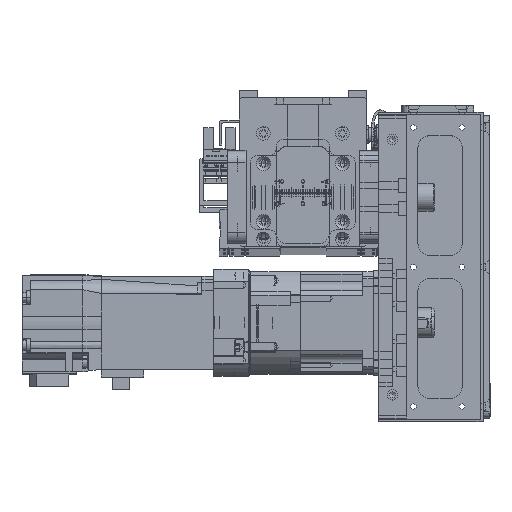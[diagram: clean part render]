
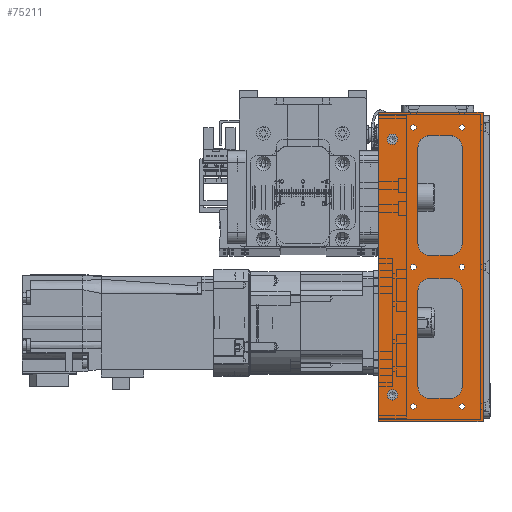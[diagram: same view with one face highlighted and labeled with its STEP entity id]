
A CAD part, top view. The second image highlights one B-rep face of the part: STEP entity #75211.
In plain terms, the highlighted planar face has unit normal (0, 0, 1) as drawn and (0, 1, 0) by its records, which use the part's own axes.
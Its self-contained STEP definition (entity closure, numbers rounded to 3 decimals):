
#1809=FACE_BOUND('',#12019,.T.);
#1810=FACE_BOUND('',#12020,.T.);
#1811=FACE_BOUND('',#12021,.T.);
#1812=FACE_BOUND('',#12022,.T.);
#1813=FACE_BOUND('',#12023,.T.);
#1814=FACE_BOUND('',#12024,.T.);
#1815=FACE_BOUND('',#12025,.T.);
#1816=FACE_BOUND('',#12026,.T.);
#1817=FACE_BOUND('',#12027,.T.);
#1818=FACE_BOUND('',#12028,.T.);
#3532=PLANE('',#82745);
#7428=FACE_OUTER_BOUND('',#12018,.T.);
#12018=EDGE_LOOP('',(#64991,#64992,#64993,#64994));
#12019=EDGE_LOOP('',(#64995));
#12020=EDGE_LOOP('',(#64996));
#12021=EDGE_LOOP('',(#64997));
#12022=EDGE_LOOP('',(#64998));
#12023=EDGE_LOOP('',(#64999));
#12024=EDGE_LOOP('',(#65000));
#12025=EDGE_LOOP('',(#65001));
#12026=EDGE_LOOP('',(#65002));
#12027=EDGE_LOOP('',(#65003,#65004,#65005,#65006,#65007,#65008,#65009,#65010));
#12028=EDGE_LOOP('',(#65011,#65012,#65013,#65014,#65015,#65016,#65017,#65018));
#16088=CIRCLE('',#82566,2.25);
#16092=CIRCLE('',#82572,2.25);
#16103=CIRCLE('',#82593,1.23);
#16107=CIRCLE('',#82599,1.23);
#16111=CIRCLE('',#82605,1.23);
#16115=CIRCLE('',#82611,1.23);
#16119=CIRCLE('',#82617,1.23);
#16123=CIRCLE('',#82623,1.23);
#16156=CIRCLE('',#82676,5.);
#16160=CIRCLE('',#82685,5.);
#16164=CIRCLE('',#82691,5.);
#16166=CIRCLE('',#82697,5.);
#16172=CIRCLE('',#82708,5.);
#16176=CIRCLE('',#82717,5.);
#16180=CIRCLE('',#82723,5.);
#16182=CIRCLE('',#82729,5.);
#20860=LINE('',#125280,#28519);
#20875=LINE('',#125310,#28534);
#20946=LINE('',#125600,#28605);
#20951=LINE('',#125611,#28610);
#20958=LINE('',#125636,#28617);
#20963=LINE('',#125647,#28622);
#20978=LINE('',#125696,#28637);
#20983=LINE('',#125707,#28642);
#20990=LINE('',#125732,#28649);
#20995=LINE('',#125743,#28654);
#21015=LINE('',#125793,#28674);
#21016=LINE('',#125795,#28675);
#28519=VECTOR('',#99221,10.);
#28534=VECTOR('',#99240,10.);
#28605=VECTOR('',#99555,10.);
#28610=VECTOR('',#99564,10.);
#28617=VECTOR('',#99591,10.);
#28622=VECTOR('',#99600,10.);
#28637=VECTOR('',#99651,10.);
#28642=VECTOR('',#99660,10.);
#28649=VECTOR('',#99687,10.);
#28654=VECTOR('',#99696,10.);
#28674=VECTOR('',#99752,10.);
#28675=VECTOR('',#99755,10.);
#36533=VERTEX_POINT('',#125277);
#36534=VERTEX_POINT('',#125279);
#36547=VERTEX_POINT('',#125308);
#36552=VERTEX_POINT('',#125328);
#36556=VERTEX_POINT('',#125340);
#36575=VERTEX_POINT('',#125398);
#36579=VERTEX_POINT('',#125410);
#36583=VERTEX_POINT('',#125422);
#36587=VERTEX_POINT('',#125434);
#36591=VERTEX_POINT('',#125446);
#36595=VERTEX_POINT('',#125458);
#36637=VERTEX_POINT('',#125581);
#36638=VERTEX_POINT('',#125583);
#36644=VERTEX_POINT('',#125598);
#36648=VERTEX_POINT('',#125610);
#36650=VERTEX_POINT('',#125616);
#36654=VERTEX_POINT('',#125628);
#36656=VERTEX_POINT('',#125634);
#36660=VERTEX_POINT('',#125646);
#36669=VERTEX_POINT('',#125677);
#36670=VERTEX_POINT('',#125679);
#36676=VERTEX_POINT('',#125694);
#36680=VERTEX_POINT('',#125706);
#36682=VERTEX_POINT('',#125712);
#36686=VERTEX_POINT('',#125724);
#36688=VERTEX_POINT('',#125730);
#36692=VERTEX_POINT('',#125742);
#36704=VERTEX_POINT('',#125791);
#46235=EDGE_CURVE('',#36533,#36534,#20860,.T.);
#46251=EDGE_CURVE('',#36547,#36533,#20875,.T.);
#46261=EDGE_CURVE('',#36552,#36552,#16088,.T.);
#46267=EDGE_CURVE('',#36556,#36556,#16092,.T.);
#46295=EDGE_CURVE('',#36575,#36575,#16103,.T.);
#46301=EDGE_CURVE('',#36579,#36579,#16107,.T.);
#46307=EDGE_CURVE('',#36583,#36583,#16111,.T.);
#46313=EDGE_CURVE('',#36587,#36587,#16115,.T.);
#46319=EDGE_CURVE('',#36591,#36591,#16119,.T.);
#46325=EDGE_CURVE('',#36595,#36595,#16123,.T.);
#46387=EDGE_CURVE('',#36638,#36637,#16156,.T.);
#46395=EDGE_CURVE('',#36637,#36644,#20946,.T.);
#46400=EDGE_CURVE('',#36648,#36638,#20951,.T.);
#46404=EDGE_CURVE('',#36644,#36650,#16160,.T.);
#46409=EDGE_CURVE('',#36654,#36648,#16164,.T.);
#46413=EDGE_CURVE('',#36650,#36656,#20958,.T.);
#46418=EDGE_CURVE('',#36660,#36654,#20963,.T.);
#46421=EDGE_CURVE('',#36656,#36660,#16166,.T.);
#46435=EDGE_CURVE('',#36670,#36669,#16172,.T.);
#46443=EDGE_CURVE('',#36669,#36676,#20978,.T.);
#46448=EDGE_CURVE('',#36680,#36670,#20983,.T.);
#46452=EDGE_CURVE('',#36676,#36682,#16176,.T.);
#46457=EDGE_CURVE('',#36686,#36680,#16180,.T.);
#46461=EDGE_CURVE('',#36682,#36688,#20990,.T.);
#46466=EDGE_CURVE('',#36692,#36686,#20995,.T.);
#46469=EDGE_CURVE('',#36688,#36692,#16182,.T.);
#46492=EDGE_CURVE('',#36704,#36534,#21015,.T.);
#46493=EDGE_CURVE('',#36547,#36704,#21016,.T.);
#64991=ORIENTED_EDGE('',*,*,#46493,.T.);
#64992=ORIENTED_EDGE('',*,*,#46492,.T.);
#64993=ORIENTED_EDGE('',*,*,#46235,.F.);
#64994=ORIENTED_EDGE('',*,*,#46251,.F.);
#64995=ORIENTED_EDGE('',*,*,#46261,.T.);
#64996=ORIENTED_EDGE('',*,*,#46267,.T.);
#64997=ORIENTED_EDGE('',*,*,#46295,.T.);
#64998=ORIENTED_EDGE('',*,*,#46301,.T.);
#64999=ORIENTED_EDGE('',*,*,#46307,.T.);
#65000=ORIENTED_EDGE('',*,*,#46313,.T.);
#65001=ORIENTED_EDGE('',*,*,#46319,.T.);
#65002=ORIENTED_EDGE('',*,*,#46325,.T.);
#65003=ORIENTED_EDGE('',*,*,#46421,.T.);
#65004=ORIENTED_EDGE('',*,*,#46418,.T.);
#65005=ORIENTED_EDGE('',*,*,#46409,.T.);
#65006=ORIENTED_EDGE('',*,*,#46400,.T.);
#65007=ORIENTED_EDGE('',*,*,#46387,.T.);
#65008=ORIENTED_EDGE('',*,*,#46395,.T.);
#65009=ORIENTED_EDGE('',*,*,#46404,.T.);
#65010=ORIENTED_EDGE('',*,*,#46413,.T.);
#65011=ORIENTED_EDGE('',*,*,#46469,.T.);
#65012=ORIENTED_EDGE('',*,*,#46466,.T.);
#65013=ORIENTED_EDGE('',*,*,#46457,.T.);
#65014=ORIENTED_EDGE('',*,*,#46448,.T.);
#65015=ORIENTED_EDGE('',*,*,#46435,.T.);
#65016=ORIENTED_EDGE('',*,*,#46443,.T.);
#65017=ORIENTED_EDGE('',*,*,#46452,.T.);
#65018=ORIENTED_EDGE('',*,*,#46461,.T.);
#75211=ADVANCED_FACE('',(#7428,#1809,#1810,#1811,#1812,#1813,#1814,#1815,
#1816,#1817,#1818),#3532,.T.);
#82566=AXIS2_PLACEMENT_3D('',#125330,#99262,#99263);
#82572=AXIS2_PLACEMENT_3D('',#125342,#99276,#99277);
#82593=AXIS2_PLACEMENT_3D('',#125399,#99335,#99336);
#82599=AXIS2_PLACEMENT_3D('',#125411,#99349,#99350);
#82605=AXIS2_PLACEMENT_3D('',#125423,#99363,#99364);
#82611=AXIS2_PLACEMENT_3D('',#125435,#99377,#99378);
#82617=AXIS2_PLACEMENT_3D('',#125447,#99391,#99392);
#82623=AXIS2_PLACEMENT_3D('',#125459,#99405,#99406);
#82676=AXIS2_PLACEMENT_3D('',#125584,#99540,#99541);
#82685=AXIS2_PLACEMENT_3D('',#125618,#99571,#99572);
#82691=AXIS2_PLACEMENT_3D('',#125629,#99584,#99585);
#82697=AXIS2_PLACEMENT_3D('',#125651,#99606,#99607);
#82708=AXIS2_PLACEMENT_3D('',#125680,#99636,#99637);
#82717=AXIS2_PLACEMENT_3D('',#125714,#99667,#99668);
#82723=AXIS2_PLACEMENT_3D('',#125725,#99680,#99681);
#82729=AXIS2_PLACEMENT_3D('',#125747,#99702,#99703);
#82745=AXIS2_PLACEMENT_3D('',#125794,#99753,#99754);
#99221=DIRECTION('',(1.,0.,0.));
#99240=DIRECTION('',(0.,0.,-1.));
#99262=DIRECTION('center_axis',(0.,-1.,0.));
#99263=DIRECTION('ref_axis',(1.,0.,0.));
#99276=DIRECTION('center_axis',(0.,-1.,0.));
#99277=DIRECTION('ref_axis',(1.,0.,0.));
#99335=DIRECTION('center_axis',(0.,-1.,0.));
#99336=DIRECTION('ref_axis',(1.,0.,0.));
#99349=DIRECTION('center_axis',(0.,-1.,0.));
#99350=DIRECTION('ref_axis',(1.,0.,0.));
#99363=DIRECTION('center_axis',(0.,-1.,0.));
#99364=DIRECTION('ref_axis',(1.,0.,0.));
#99377=DIRECTION('center_axis',(0.,-1.,0.));
#99378=DIRECTION('ref_axis',(1.,0.,0.));
#99391=DIRECTION('center_axis',(0.,-1.,0.));
#99392=DIRECTION('ref_axis',(1.,0.,0.));
#99405=DIRECTION('center_axis',(0.,-1.,0.));
#99406=DIRECTION('ref_axis',(1.,0.,0.));
#99540=DIRECTION('center_axis',(0.,-1.,0.));
#99541=DIRECTION('ref_axis',(0.,0.,-1.));
#99555=DIRECTION('',(-1.,0.,0.));
#99564=DIRECTION('',(0.,0.,1.));
#99571=DIRECTION('center_axis',(0.,-1.,0.));
#99572=DIRECTION('ref_axis',(1.,0.,0.));
#99584=DIRECTION('center_axis',(0.,-1.,0.));
#99585=DIRECTION('ref_axis',(-1.,0.,0.));
#99591=DIRECTION('',(0.,0.,-1.));
#99600=DIRECTION('',(1.,0.,0.));
#99606=DIRECTION('center_axis',(0.,-1.,0.));
#99607=DIRECTION('ref_axis',(0.,0.,1.));
#99636=DIRECTION('center_axis',(0.,-1.,0.));
#99637=DIRECTION('ref_axis',(1.,0.,0.));
#99651=DIRECTION('',(0.,0.,-1.));
#99660=DIRECTION('',(-1.,0.,0.));
#99667=DIRECTION('center_axis',(0.,-1.,0.));
#99668=DIRECTION('ref_axis',(0.,0.,1.));
#99680=DIRECTION('center_axis',(0.,-1.,0.));
#99681=DIRECTION('ref_axis',(0.,0.,-1.));
#99687=DIRECTION('',(1.,0.,0.));
#99696=DIRECTION('',(0.,0.,1.));
#99702=DIRECTION('center_axis',(0.,-1.,0.));
#99703=DIRECTION('ref_axis',(-1.,0.,0.));
#99752=DIRECTION('',(0.,0.,-1.));
#99753=DIRECTION('center_axis',(0.,1.,0.));
#99754=DIRECTION('ref_axis',(1.,0.,0.));
#99755=DIRECTION('',(1.,0.,0.));
#125277=CARTESIAN_POINT('',(-66.5,28.,-45.));
#125279=CARTESIAN_POINT('',(66.5,28.,-45.));
#125280=CARTESIAN_POINT('',(-66.5,28.,-45.));
#125308=CARTESIAN_POINT('',(-66.5,28.,0.));
#125310=CARTESIAN_POINT('',(-66.5,28.,0.));
#125328=CARTESIAN_POINT('',(52.75,28.,-39.));
#125330=CARTESIAN_POINT('Origin',(55.,28.,-39.));
#125340=CARTESIAN_POINT('',(-57.25,28.,-39.));
#125342=CARTESIAN_POINT('Origin',(-55.,28.,-39.));
#125398=CARTESIAN_POINT('',(58.771,28.,-30.));
#125399=CARTESIAN_POINT('Origin',(60.,28.,-30.));
#125410=CARTESIAN_POINT('',(-61.23,28.,-30.));
#125411=CARTESIAN_POINT('Origin',(-60.,28.,-30.));
#125422=CARTESIAN_POINT('',(-1.23,28.,-30.));
#125423=CARTESIAN_POINT('Origin',(0.,28.,-30.));
#125434=CARTESIAN_POINT('',(-1.23,28.,-9.));
#125435=CARTESIAN_POINT('Origin',(0.,28.,-9.));
#125446=CARTESIAN_POINT('',(-61.23,28.,-9.));
#125447=CARTESIAN_POINT('Origin',(-60.,28.,-9.));
#125458=CARTESIAN_POINT('',(58.771,28.,-9.));
#125459=CARTESIAN_POINT('Origin',(60.,28.,-9.));
#125581=CARTESIAN_POINT('',(-10.,28.,-9.));
#125583=CARTESIAN_POINT('',(-5.,28.,-14.));
#125584=CARTESIAN_POINT('Origin',(-10.,28.,-14.));
#125598=CARTESIAN_POINT('',(-51.5,28.,-9.));
#125600=CARTESIAN_POINT('',(-38.25,28.,-9.));
#125610=CARTESIAN_POINT('',(-5.,28.,-23.));
#125611=CARTESIAN_POINT('',(-5.,28.,-11.5));
#125616=CARTESIAN_POINT('',(-56.5,28.,-14.));
#125618=CARTESIAN_POINT('Origin',(-51.5,28.,-14.));
#125628=CARTESIAN_POINT('',(-10.,28.,-28.));
#125629=CARTESIAN_POINT('Origin',(-10.,28.,-23.));
#125634=CARTESIAN_POINT('',(-56.5,28.,-23.));
#125636=CARTESIAN_POINT('',(-56.5,28.,-7.));
#125646=CARTESIAN_POINT('',(-51.5,28.,-28.));
#125647=CARTESIAN_POINT('',(-59.,28.,-28.));
#125651=CARTESIAN_POINT('Origin',(-51.5,28.,-23.));
#125677=CARTESIAN_POINT('',(5.,28.,-14.));
#125679=CARTESIAN_POINT('',(10.,28.,-9.));
#125680=CARTESIAN_POINT('Origin',(10.,28.,-14.));
#125694=CARTESIAN_POINT('',(5.,28.,-23.));
#125696=CARTESIAN_POINT('',(5.,28.,-7.));
#125706=CARTESIAN_POINT('',(51.5,28.,-9.));
#125707=CARTESIAN_POINT('',(-7.5,28.,-9.));
#125712=CARTESIAN_POINT('',(10.,28.,-28.));
#125714=CARTESIAN_POINT('Origin',(10.,28.,-23.));
#125724=CARTESIAN_POINT('',(56.5,28.,-14.));
#125725=CARTESIAN_POINT('Origin',(51.5,28.,-14.));
#125730=CARTESIAN_POINT('',(51.5,28.,-28.));
#125732=CARTESIAN_POINT('',(-28.25,28.,-28.));
#125742=CARTESIAN_POINT('',(56.5,28.,-23.));
#125743=CARTESIAN_POINT('',(56.5,28.,-11.5));
#125747=CARTESIAN_POINT('Origin',(51.5,28.,-23.));
#125791=CARTESIAN_POINT('',(66.5,28.,0.));
#125793=CARTESIAN_POINT('',(66.5,28.,0.));
#125794=CARTESIAN_POINT('Origin',(-66.5,28.,0.));
#125795=CARTESIAN_POINT('',(-66.5,28.,0.));
